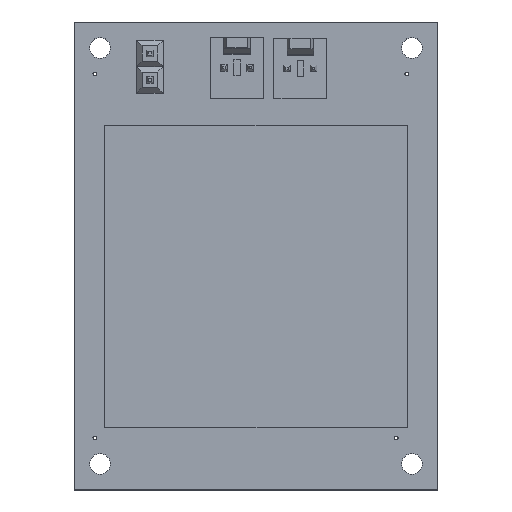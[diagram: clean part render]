
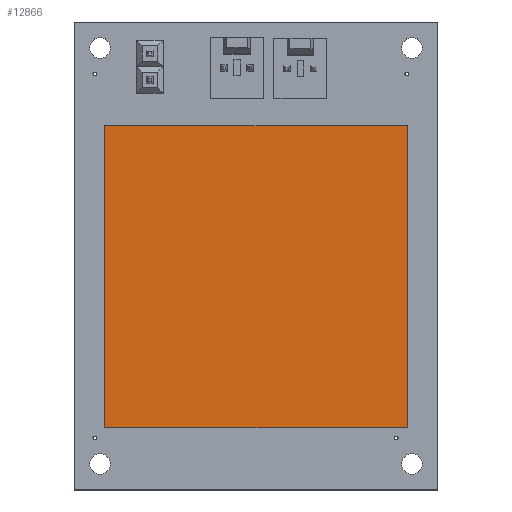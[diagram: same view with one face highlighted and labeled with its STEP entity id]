
A CAD part, top view. The second image highlights one B-rep face of the part: STEP entity #12866.
In plain terms, the highlighted planar face has unit normal (0, 0, 1).
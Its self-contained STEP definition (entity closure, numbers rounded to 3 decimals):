
#772=PLANE('',#14078);
#1430=FACE_OUTER_BOUND('',#2289,.T.);
#2289=EDGE_LOOP('',(#11354,#11355,#11356,#11357));
#3559=LINE('',#20999,#4893);
#3562=LINE('',#21005,#4896);
#3565=LINE('',#21011,#4899);
#3568=LINE('',#21015,#4902);
#4893=VECTOR('',#17332,10.);
#4896=VECTOR('',#17337,10.);
#4899=VECTOR('',#17342,10.);
#4902=VECTOR('',#17347,10.);
#6434=VERTEX_POINT('',#20996);
#6435=VERTEX_POINT('',#20998);
#6437=VERTEX_POINT('',#21004);
#6439=VERTEX_POINT('',#21010);
#8091=EDGE_CURVE('',#6435,#6434,#3559,.T.);
#8094=EDGE_CURVE('',#6437,#6435,#3562,.T.);
#8097=EDGE_CURVE('',#6439,#6437,#3565,.T.);
#8100=EDGE_CURVE('',#6434,#6439,#3568,.T.);
#11354=ORIENTED_EDGE('',*,*,#8100,.T.);
#11355=ORIENTED_EDGE('',*,*,#8097,.T.);
#11356=ORIENTED_EDGE('',*,*,#8094,.T.);
#11357=ORIENTED_EDGE('',*,*,#8091,.T.);
#12866=ADVANCED_FACE('',(#1430),#772,.T.);
#14078=AXIS2_PLACEMENT_3D('',#21016,#17348,#17349);
#17332=DIRECTION('',(0.,-1.,0.));
#17337=DIRECTION('',(-1.,0.,0.));
#17342=DIRECTION('',(0.,1.,0.));
#17347=DIRECTION('',(1.,0.,0.));
#17348=DIRECTION('center_axis',(0.,0.,
1.));
#17349=DIRECTION('ref_axis',(1.,0.,0.));
#20996=CARTESIAN_POINT('',(-14.524,-14.555,5.));
#20998=CARTESIAN_POINT('',(-14.524,14.555,5.));
#20999=CARTESIAN_POINT('',(-14.524,-14.555,5.));
#21004=CARTESIAN_POINT('',(14.524,14.555,5.));
#21005=CARTESIAN_POINT('',(-14.524,14.555,5.));
#21010=CARTESIAN_POINT('',(14.524,-14.555,5.));
#21011=CARTESIAN_POINT('',(14.524,14.555,5.));
#21015=CARTESIAN_POINT('',(14.524,-14.555,5.));
#21016=CARTESIAN_POINT('Origin',(0.,0.,
5.));
